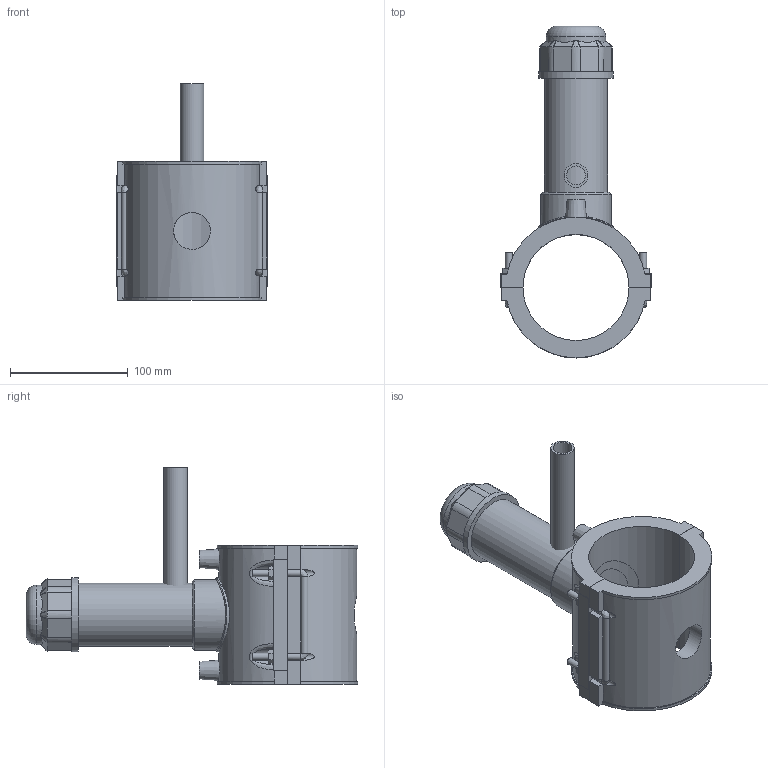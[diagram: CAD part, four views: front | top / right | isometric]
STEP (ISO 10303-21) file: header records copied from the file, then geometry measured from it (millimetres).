
FILE_DESCRIPTION(/* description */ (''),/* implementation_level */ '2;1');
FILE_NAME(/* name */ 'C:\Dropbox\KIMPROJECTS-Inventor 2019\99-16-3568-Processing\ElectroFusion Fittings\4963P4\stp\4963P4090020.stp',/* time_stamp */ '2022-03-17T11:26:45+02:00',/* author */ ('KIM'),/* organization */ (''),/* preprocessor_version */ 'ST-DEVELOPER v17.2',/* originating_system */ 'Autodesk Inventor 2019',/* authorisation */ '');
FILE_SCHEMA (('AUTOMOTIVE_DESIGN { 1 0 10303 214 3 1 1 }'));
Length unit declared in the file: millimetre
Products named in the file (1): 4963P4090020
Bounding box: 128 x 281.67 x 184 mm (x, y, z)
Volume: 797085.7 mm3; surface area: 176540.6 mm2
Topology: 3 solids, 3 shells, 218 faces, 559 edges, 360 vertices
Faces by surface type: plane 125, cylinder 52, bspline 25, cone 15, torus 1
Full cylindrical faces by diameter (mm): 4 x2, 6 x8, 10 x2, 16 x1, 20 x1, 31.36 x1, 44.1 x1, 50.4 x1, 53.55 x1, 59.85 x1, 63 x2
Entity records: 8081 total; most frequent: CARTESIAN_POINT 2817, ORIENTED_EDGE 1118, DIRECTION 1023, EDGE_CURVE 559, VERTEX_POINT 360, AXIS2_PLACEMENT_3D 351, LINE 321, VECTOR 321
